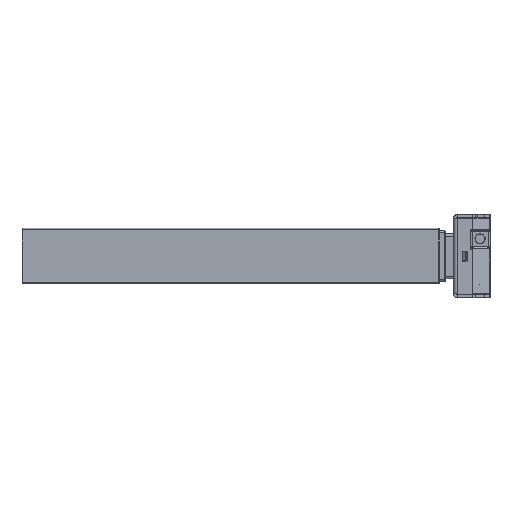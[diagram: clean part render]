
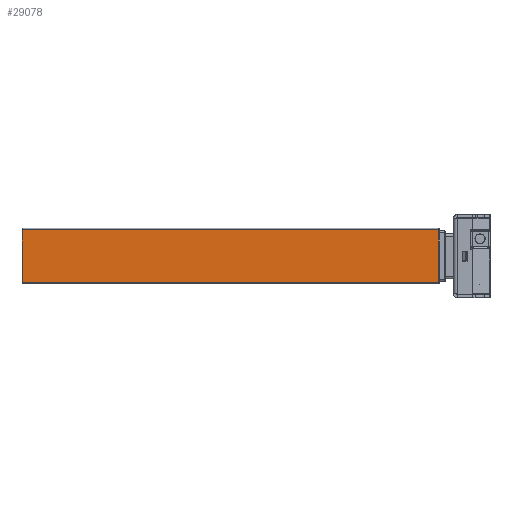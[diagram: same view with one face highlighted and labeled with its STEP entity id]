
A CAD part, left-side view. The second image highlights one B-rep face of the part: STEP entity #29078.
In plain terms, the highlighted planar face has unit normal (-1, 0, 0).
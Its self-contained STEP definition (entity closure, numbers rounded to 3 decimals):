
#406 = EDGE_CURVE ( 'NONE', #48301, #75473, #14824, .T. ) ;
#2996 = CARTESIAN_POINT ( 'NONE',  ( -8.871, -9.735, 23.352 ) ) ;
#6412 = CARTESIAN_POINT ( 'NONE',  ( -8.871, -9.735, 20.754 ) ) ;
#6580 = ORIENTED_EDGE ( 'NONE', *, *, #14193, .F. ) ;
#9758 = EDGE_CURVE ( 'NONE', #46487, #48301, #43752, .T. ) ;
#12949 = EDGE_LOOP ( 'NONE', ( #6580, #16674, #13269, #30036 ) ) ;
#13269 = ORIENTED_EDGE ( 'NONE', *, *, #9758, .T. ) ;
#14193 = EDGE_CURVE ( 'NONE', #39399, #75473, #74065, .T. ) ;
#14824 = LINE ( 'NONE', #60524, #31961 ) ;
#16408 = DIRECTION ( 'NONE',  ( 1., 0., 0. ) ) ;
#16674 = ORIENTED_EDGE ( 'NONE', *, *, #69138, .T. ) ;
#21431 = CARTESIAN_POINT ( 'NONE',  ( -8.871, 10.973, 23.352 ) ) ;
#25558 = LINE ( 'NONE', #60598, #31194 ) ;
#27579 = VECTOR ( 'NONE', #49771, 39.37 ) ;
#28200 = FACE_OUTER_BOUND ( 'NONE', #12949, .T. ) ;
#28607 = CARTESIAN_POINT ( 'NONE',  ( -8.871, -9.735, 23.431 ) ) ;
#29078 = ADVANCED_FACE ( 'NONE', ( #28200 ), #46185, .F. ) ;
#29353 = VECTOR ( 'NONE', #54912, 39.37 ) ;
#30036 = ORIENTED_EDGE ( 'NONE', *, *, #406, .T. ) ;
#30207 = DIRECTION ( 'NONE',  ( 0., -1., 0. ) ) ;
#31194 = VECTOR ( 'NONE', #60823, 39.37 ) ;
#31961 = VECTOR ( 'NONE', #30207, 39.37 ) ;
#39399 = VERTEX_POINT ( 'NONE', #2996 ) ;
#43752 = LINE ( 'NONE', #61198, #27579 ) ;
#46185 = PLANE ( 'NONE',  #58745 ) ;
#46487 = VERTEX_POINT ( 'NONE', #21431 ) ;
#47086 = CARTESIAN_POINT ( 'NONE',  ( -8.871, 10.973, 20.754 ) ) ;
#48301 = VERTEX_POINT ( 'NONE', #47086 ) ;
#49771 = DIRECTION ( 'NONE',  ( 0., 0., -1. ) ) ;
#54912 = DIRECTION ( 'NONE',  ( 0., 0., -1. ) ) ;
#58339 = DIRECTION ( 'NONE',  ( 0., 0., 1. ) ) ;
#58745 = AXIS2_PLACEMENT_3D ( 'NONE', #28607, #16408, #58339 ) ;
#60007 = CARTESIAN_POINT ( 'NONE',  ( -8.871, -9.735, 23.431 ) ) ;
#60524 = CARTESIAN_POINT ( 'NONE',  ( -8.871, -9.735, 20.754 ) ) ;
#60598 = CARTESIAN_POINT ( 'NONE',  ( -8.871, -9.735, 23.352 ) ) ;
#60823 = DIRECTION ( 'NONE',  ( 0., 1., 0. ) ) ;
#61198 = CARTESIAN_POINT ( 'NONE',  ( -8.871, 10.973, 23.431 ) ) ;
#69138 = EDGE_CURVE ( 'NONE', #39399, #46487, #25558, .T. ) ;
#74065 = LINE ( 'NONE', #60007, #29353 ) ;
#75473 = VERTEX_POINT ( 'NONE', #6412 ) ;
